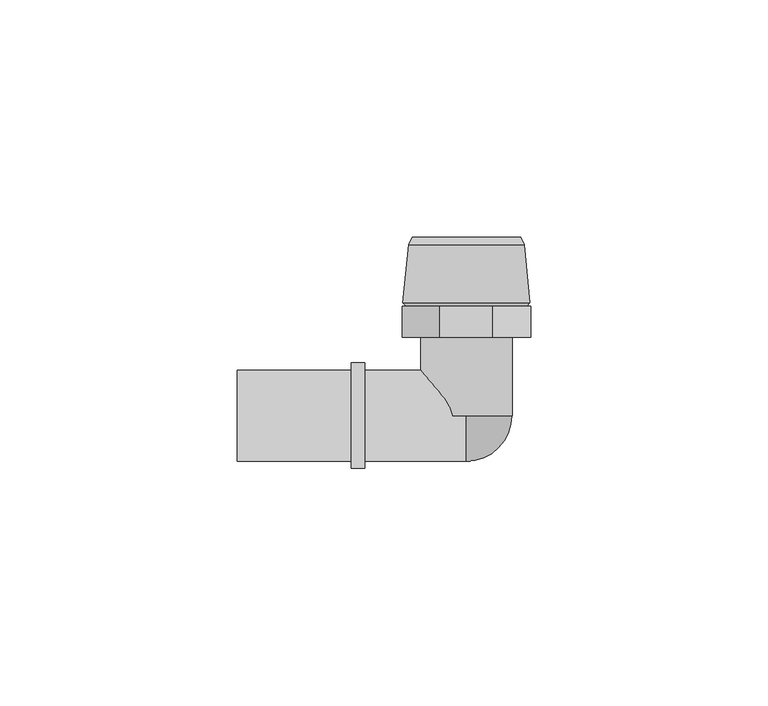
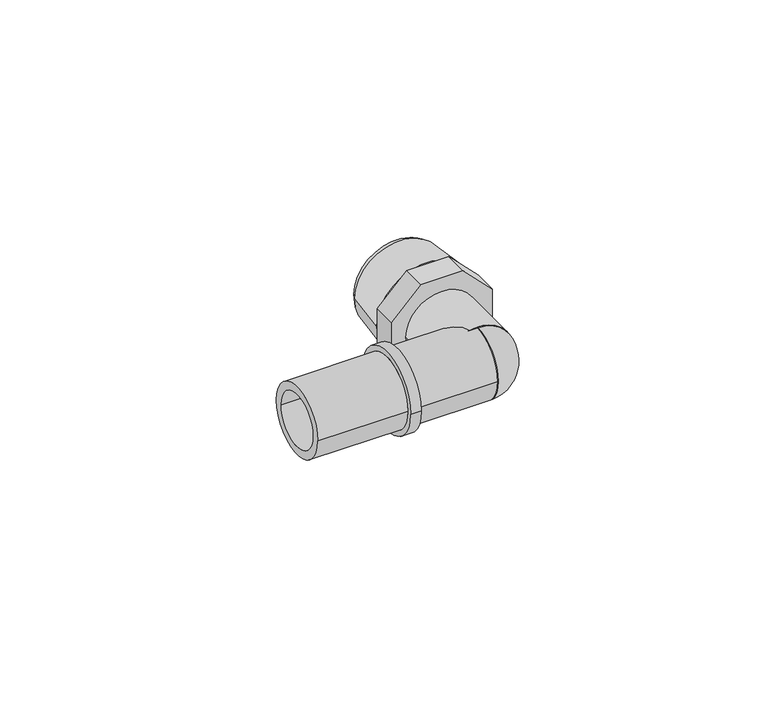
"""IFC4 building model written with IfcOpenShell, lengths in millimetres: pipe fitting geometry, FASTLOC_Elbow with male thread LX : FSL A internal PL."""

from ifc_helpers import new_model, si_unit, point, frame, origin, origin_2d, place, context, project, spatial, polyline, circle_curve, ellipse_curve, trimmed, segment, composite_curve, outline, extrude, source, transform, mapped, element, save
from ifc_brep_helpers import plane_surface, cylinder_surface, revolved_surface, advanced_brep


def pipe_fitting_6786ca7f(model_context):
    return source(origin(), model_context, "Body", "SolidModel", [
        extrude(outline(composite_curve([segment(trimmed(circle_curve(origin_2d(), 9.6), [point((0.0, -9.6))], [point((0.0, 9.6))], False, "CARTESIAN"), True, "CONTINUOUS"), segment(trimmed(circle_curve(origin_2d(), 9.6), [point((0.0, 9.6))], [point((0.0, -9.6))], False, "CARTESIAN"), True, "CONTINUOUS")], self_intersect=False), holes=[composite_curve([segment(trimmed(circle_curve(origin_2d(), 7.35), [point((0.0, -7.35))], [point((0.0, 7.35))], True, "CARTESIAN"), True, "CONTINUOUS"), segment(trimmed(circle_curve(origin_2d(), 7.35), [point((0.0, 7.35))], [point((0.0, -7.35))], True, "CARTESIAN"), True, "CONTINUOUS")], self_intersect=False)]), frame((0.0, 0.0, 0.0), z_axis=(0.0, 1.0, 0.0), x_axis=(0.0, 0.0, 1.0)), (0.0, 0.0, 1.0), 16.5),
        extrude(outline(polyline([(-13.5, 5.5918831), (-5.5918831, 13.5), (5.5918831, 13.5), (13.5, 5.5918831), (13.5, -5.5918831), (5.5918831, -13.5), (-5.5918831, -13.5), (-13.5, -5.5918831), (-13.5, 5.5918831)])), frame((0.0, 16.5, 0.0), z_axis=(0.0, 1.0, 0.0), x_axis=(0.0, 0.0, 1.0)), (0.0, 0.0, 1.0), 6.5),
        advanced_brep(
        [(0.0, -9.6, 0.0), (0.0, 0.0, 9.6), (0.0, 0.0, 6.95), (0.0, -6.95, 0.0), (0.0, 0.0, -6.95), (0.0, 0.0, -9.6)],
        [
            (0, 1, circle_curve(frame((0.0, 0.0, 0.0), z_axis=(-1.0, 0.0, 0.0), x_axis=(0.0, 0.0, 1.0)), 9.6)),
            (1, 2),
            (2, 3, circle_curve(frame((0.0, 0.0, 0.0), z_axis=(1.0, 0.0, 0.0), x_axis=(0.0, 0.0, 1.0)), 6.95)),
            (3, 0),
            (3, 4, circle_curve(frame((0.0, 0.0, 0.0), z_axis=(1.0, 0.0, 0.0), x_axis=(0.0, 0.0, -1.0)), 6.95)),
            (4, 5),
            (5, 0, circle_curve(frame((0.0, 0.0, 0.0), z_axis=(-1.0, 0.0, 0.0), x_axis=(0.0, 0.0, -1.0)), 9.6)),
            (5, 1, circle_curve(frame((0.0, 0.0, 0.0), z_axis=(0.0, -1.0, 0.0), x_axis=(0.0, 0.0, 1.0)), 9.6)),
            (4, 2, circle_curve(frame((0.0, 0.0, 0.0), z_axis=(0.0, -1.0, 0.0), x_axis=(0.0, 0.0, 1.0)), 6.95)),
        ],
        [
            plane_surface(frame((0.0, 0.0, 0.0), z_axis=(-1.0, 0.0, 0.0), x_axis=(0.0, 0.0, 1.0))),
            plane_surface(frame((0.0, 0.0, 0.0), z_axis=(-1.0, 0.0, 0.0), x_axis=(0.0, 0.0, -1.0))),
            revolved_surface(trimmed(ellipse_curve(frame((0.0, 0.0, 0.0), z_axis=(-1.0, 0.0, 0.0), x_axis=(0.0, 0.0, 1.0)), 9.6, 9.6), [point((0.0, -9.6, 0.0))], [point((0.0, 0.0, 9.6))], True, "CARTESIAN"), (0.0, 0.0, 0.0), (0.0, 1.0, 0.0)),
            plane_surface(frame((0.0, 0.0, 0.0), z_axis=(0.0, 1.0, 0.0), x_axis=(0.0, 0.0, 1.0))),
            revolved_surface(trimmed(ellipse_curve(frame((0.0, 0.0, 0.0), z_axis=(1.0, 0.0, 0.0), x_axis=(0.0, 0.0, 1.0)), 6.95, 6.95), [point((0.0, 0.0, 6.95))], [point((0.0, -6.95, 0.0))], True, "CARTESIAN"), (0.0, 0.0, 0.0), (0.0, 1.0, 0.0)),
        ],
        [
            (0, [[1, 2, 3, 4]]),
            (1, [[5, 6, 7, -4]]),
            (2, [[8, -1, -7]]),
            (3, [[9, -2, -8, -6]]),
            (4, [[-3, -9, -5]]),
        ],
    ),
        advanced_brep(
        [(12.15, 36.0000007, 0.0), (-12.15, 36.0000007, 0.0), (-11.45, 37.5, 0.0), (11.45, 37.5, 0.0), (13.35, 23.7406902, 0.0), (-13.35, 23.7406902, 0.0), (12.7, 23.0, 0.0), (-12.7, 23.0, 0.0), (9.5, 24.1032803, 0.0), (-9.5, 24.1032803, 0.0), (-8.3967197, 23.0, 0.0), (8.3967197, 23.0, 0.0), (9.5, 37.5, 0.0), (-9.5, 37.5, 0.0)],
        [
            (0, 1, circle_curve(frame((0.0, 36.0000007, 0.0), z_axis=(0.0, 1.0, 0.0), x_axis=(-1.0, 0.0, 0.0)), 12.15)),
            (1, 2),
            (2, 3, circle_curve(frame((0.0, 37.5, 0.0), z_axis=(0.0, -1.0, 0.0), x_axis=(-1.0, 0.0, 0.0)), 11.45)),
            (3, 0),
            (4, 5, circle_curve(frame((0.0, 23.7406902, 0.0), z_axis=(0.0, 1.0, 0.0), x_axis=(-1.0, 0.0, 0.0)), 13.35)),
            (5, 1),
            (0, 4),
            (6, 7, circle_curve(frame((0.0, 23.0, 0.0), z_axis=(0.0, 1.0, 0.0), x_axis=(-1.0, 0.0, 0.0)), 12.7)),
            (7, 5),
            (4, 6),
            (8, 9, circle_curve(frame((0.0, 24.1032803, 0.0), z_axis=(0.0, 1.0, 0.0), x_axis=(-1.0, 0.0, 0.0)), 9.5)),
            (9, 10),
            (10, 11, circle_curve(frame((0.0, 23.0, 0.0), z_axis=(0.0, -1.0, 0.0), x_axis=(-1.0, 0.0, 0.0)), 8.3967197)),
            (11, 8),
            (12, 13, circle_curve(frame((0.0, 37.5, 0.0), z_axis=(0.0, 1.0, 0.0), x_axis=(-1.0, 0.0, 0.0)), 9.5)),
            (13, 9),
            (8, 12),
            (2, 3, circle_curve(frame((0.0, 37.5, 0.0), z_axis=(0.0, 1.0, 0.0), x_axis=(1.0, 0.0, 0.0)), 11.45)),
            (12, 13, circle_curve(frame((0.0, 37.5, 0.0), z_axis=(0.0, -1.0, 0.0), x_axis=(1.0, 0.0, 0.0)), 9.5)),
            (1, 0, circle_curve(frame((0.0, 36.0000007, 0.0), z_axis=(0.0, 1.0, 0.0), x_axis=(1.0, 0.0, 0.0)), 12.15)),
            (5, 4, circle_curve(frame((0.0, 23.7406902, 0.0), z_axis=(0.0, 1.0, 0.0), x_axis=(1.0, 0.0, 0.0)), 13.35)),
            (7, 6, circle_curve(frame((0.0, 23.0, 0.0), z_axis=(0.0, 1.0, 0.0), x_axis=(1.0, 0.0, 0.0)), 12.7)),
            (10, 11, circle_curve(frame((0.0, 23.0, 0.0), z_axis=(0.0, 1.0, 0.0), x_axis=(1.0, 0.0, 0.0)), 8.3967197)),
            (9, 8, circle_curve(frame((0.0, 24.1032803, 0.0), z_axis=(0.0, 1.0, 0.0), x_axis=(1.0, 0.0, 0.0)), 9.5)),
        ],
        [
            revolved_surface(polyline([(-11.45, 37.5, 0.0), (-12.15, 36.0000007, 0.0)]), (0.0, 16.5, 0.0), (0.0, -1.0, 0.0)),
            revolved_surface(polyline([(-12.15, 36.0000007, 0.0), (-13.35, 23.7406902, 0.0)]), (0.0, 16.5, 0.0), (0.0, -1.0, 0.0)),
            revolved_surface(polyline([(-13.35, 23.7406902, 0.0), (-12.7, 23.0, 0.0)]), (0.0, 16.5, 0.0), (0.0, -1.0, 0.0)),
            revolved_surface(polyline([(-8.3967197, 23.0, 0.0), (-9.5, 24.1032803, 0.0)]), (0.0, 16.5, 0.0), (0.0, -1.0, 0.0)),
            revolved_surface(polyline([(-9.5, 24.1032803, 0.0), (-9.5, 37.5, 0.0)]), (0.0, 16.5, 0.0), (0.0, -1.0, 0.0)),
            plane_surface(frame((0.0, 37.5, 0.0), z_axis=(0.0, 1.0, 0.0), x_axis=(1.0, 0.0, 0.0))),
            revolved_surface(polyline([(11.45, 37.5, 0.0), (12.15, 36.0000007, 0.0)]), (0.0, 16.5, 0.0), (0.0, -1.0, 0.0)),
            revolved_surface(polyline([(12.15, 36.0000007, 0.0), (13.35, 23.7406902, 0.0)]), (0.0, 16.5, 0.0), (0.0, -1.0, 0.0)),
            revolved_surface(polyline([(13.35, 23.7406902, 0.0), (12.7, 23.0, 0.0)]), (0.0, 16.5, 0.0), (0.0, -1.0, 0.0)),
            plane_surface(frame((0.0, 23.0, 0.0), z_axis=(0.0, -1.0, 0.0), x_axis=(1.0, 0.0, 0.0))),
            revolved_surface(polyline([(8.3967197, 23.0, 0.0), (9.5, 24.1032803, 0.0)]), (0.0, 16.5, 0.0), (0.0, -1.0, 0.0)),
            revolved_surface(polyline([(9.5, 24.1032803, 0.0), (9.5, 37.5, 0.0)]), (0.0, 16.5, 0.0), (0.0, -1.0, 0.0)),
        ],
        [
            (0, [[1, 2, 3, 4]]),
            (1, [[5, 6, -1, 7]]),
            (2, [[8, 9, -5, 10]]),
            (3, [[11, 12, 13, 14]]),
            (4, [[15, 16, -11, 17]]),
            (5, [[18, -3], [19, -15]]),
            (6, [[20, -4, -18, -2]]),
            (7, [[21, -7, -20, -6]]),
            (8, [[22, -10, -21, -9]]),
            (9, [[-22, -8], [23, -13]]),
            (10, [[24, -14, -23, -12]]),
            (11, [[-19, -17, -24, -16]]),
        ],
    ),
        advanced_brep(
        [(-24.2, 9.6, 0.0), (-24.2, -9.6, 0.0), (-48.2, -9.6, 0.0), (-48.2, 9.6, 0.0), (-21.4, 11.1, 0.0), (-21.4, -11.1, 0.0), (-24.2, -11.1, 0.0), (-24.2, 11.1, 0.0), (0.0, 9.6, 0.0), (0.0, -9.6, 0.0), (-21.4, -9.6, 0.0), (-21.4, 9.6, 0.0), (-48.2, 7.35, 0.0), (-48.2, -7.35, 0.0), (0.0, -7.35, 0.0), (0.0, 7.35, 0.0)],
        [
            (0, 1, circle_curve(frame((-24.2, 0.0, 0.0), z_axis=(-1.0, 0.0, 0.0), x_axis=(0.0, -1.0, 0.0)), 9.6)),
            (1, 2),
            (2, 3, circle_curve(frame((-48.2, 0.0, 0.0), z_axis=(1.0, 0.0, 0.0), x_axis=(0.0, -1.0, 0.0)), 9.6)),
            (3, 0),
            (4, 5, circle_curve(frame((-21.4, 0.0, 0.0), z_axis=(-1.0, 0.0, 0.0), x_axis=(0.0, -1.0, 0.0)), 11.1)),
            (5, 6),
            (6, 7, circle_curve(frame((-24.2, 0.0, 0.0), z_axis=(1.0, 0.0, 0.0), x_axis=(0.0, -1.0, 0.0)), 11.1)),
            (7, 4),
            (8, 9, circle_curve(frame((0.0, 0.0, 0.0), z_axis=(-1.0, 0.0, 0.0), x_axis=(0.0, -1.0, 0.0)), 9.6)),
            (9, 10),
            (10, 11, circle_curve(frame((-21.4, 0.0, 0.0), z_axis=(1.0, 0.0, 0.0), x_axis=(0.0, -1.0, 0.0)), 9.6)),
            (11, 8),
            (12, 13, circle_curve(frame((-48.2, 0.0, 0.0), z_axis=(-1.0, 0.0, 0.0), x_axis=(0.0, -1.0, 0.0)), 7.35)),
            (13, 14),
            (14, 15, circle_curve(frame((0.0, 0.0, 0.0), z_axis=(1.0, 0.0, 0.0), x_axis=(0.0, -1.0, 0.0)), 7.35)),
            (15, 12),
            (2, 3, circle_curve(frame((-48.2, 0.0, 0.0), z_axis=(-1.0, 0.0, 0.0), x_axis=(0.0, 1.0, 0.0)), 9.6)),
            (12, 13, circle_curve(frame((-48.2, 0.0, 0.0), z_axis=(1.0, 0.0, 0.0), x_axis=(0.0, 1.0, 0.0)), 7.35)),
            (1, 0, circle_curve(frame((-24.2, 0.0, 0.0), z_axis=(-1.0, 0.0, 0.0), x_axis=(0.0, 1.0, 0.0)), 9.6)),
            (6, 7, circle_curve(frame((-24.2, 0.0, 0.0), z_axis=(-1.0, 0.0, 0.0), x_axis=(0.0, 1.0, 0.0)), 11.1)),
            (5, 4, circle_curve(frame((-21.4, 0.0, 0.0), z_axis=(-1.0, 0.0, 0.0), x_axis=(0.0, 1.0, 0.0)), 11.1)),
            (10, 11, circle_curve(frame((-21.4, 0.0, 0.0), z_axis=(-1.0, 0.0, 0.0), x_axis=(0.0, 1.0, 0.0)), 9.6)),
            (9, 8, circle_curve(frame((0.0, 0.0, 0.0), z_axis=(-1.0, 0.0, 0.0), x_axis=(0.0, 1.0, 0.0)), 9.6)),
            (14, 15, circle_curve(frame((0.0, 0.0, 0.0), z_axis=(-1.0, 0.0, 0.0), x_axis=(0.0, 1.0, 0.0)), 7.35)),
        ],
        [
            cylinder_surface(frame((0.0, 0.0, 0.0), z_axis=(1.0, 0.0, 0.0), x_axis=(0.0, -1.0, 0.0)), 9.6),
            cylinder_surface(frame((0.0, 0.0, 0.0), z_axis=(1.0, 0.0, 0.0), x_axis=(0.0, -1.0, 0.0)), 11.1),
            revolved_surface(polyline([(0.0, -7.35, 0.0), (-48.2, -7.35, 0.0)]), (0.0, 0.0, 0.0), (1.0, 0.0, 0.0)),
            plane_surface(frame((-48.2, 0.0, 0.0), z_axis=(-1.0, 0.0, 0.0), x_axis=(0.0, 1.0, 0.0))),
            cylinder_surface(frame((0.0, 0.0, 0.0), z_axis=(1.0, 0.0, 0.0), x_axis=(0.0, 1.0, 0.0)), 9.6),
            plane_surface(frame((-24.2, 0.0, 0.0), z_axis=(-1.0, 0.0, 0.0), x_axis=(0.0, 1.0, 0.0))),
            cylinder_surface(frame((0.0, 0.0, 0.0), z_axis=(1.0, 0.0, 0.0), x_axis=(0.0, 1.0, 0.0)), 11.1),
            plane_surface(frame((-21.4, 0.0, 0.0), z_axis=(1.0, 0.0, 0.0), x_axis=(0.0, 1.0, 0.0))),
            plane_surface(frame((0.0, 0.0, 0.0), z_axis=(1.0, 0.0, 0.0), x_axis=(0.0, 1.0, 0.0))),
            revolved_surface(polyline([(0.0, 7.35, 0.0), (-48.2, 7.35, 0.0)]), (0.0, 0.0, 0.0), (1.0, 0.0, 0.0)),
        ],
        [
            (0, [[1, 2, 3, 4]]),
            (1, [[5, 6, 7, 8]]),
            (0, [[9, 10, 11, 12]]),
            (2, [[13, 14, 15, 16]]),
            (3, [[17, -3], [18, -13]]),
            (4, [[19, -4, -17, -2]]),
            (5, [[20, -7], [-19, -1]]),
            (6, [[21, -8, -20, -6]]),
            (7, [[-21, -5], [22, -11]]),
            (4, [[23, -12, -22, -10]]),
            (8, [[-23, -9], [24, -15]]),
            (9, [[-18, -16, -24, -14]]),
        ],
    ),
    ])


if __name__ == "__main__":
    model = new_model("IFC4")
    model_context = context("Model", 3, world=origin())
    ifc_project = project(units=[si_unit("LENGTHUNIT", "METRE", prefix="MILLI")], contexts=[model_context])
    site = spatial("IfcSite", under=ifc_project)
    building = spatial("IfcBuilding", under=site)
    placement = place(None, origin())
    pipe_fitting_shape = pipe_fitting_6786ca7f(model_context)
    element("IfcPipeFitting", 1, ObjectType="FASTLOC_Elbow with male thread LX : FSL A internal PL", at=placement, inside=building, context=model_context, shape_type="MappedRepresentation", body=[
        mapped(pipe_fitting_shape, transform((0.0, 0.0, 0.0), x_axis=(1.0, 0.0, 0.0), y_axis=(0.0, 1.0, 0.0), z_axis=(0.0, 0.0, 1.0))),
    ])
    save(model, "model.ifc")
